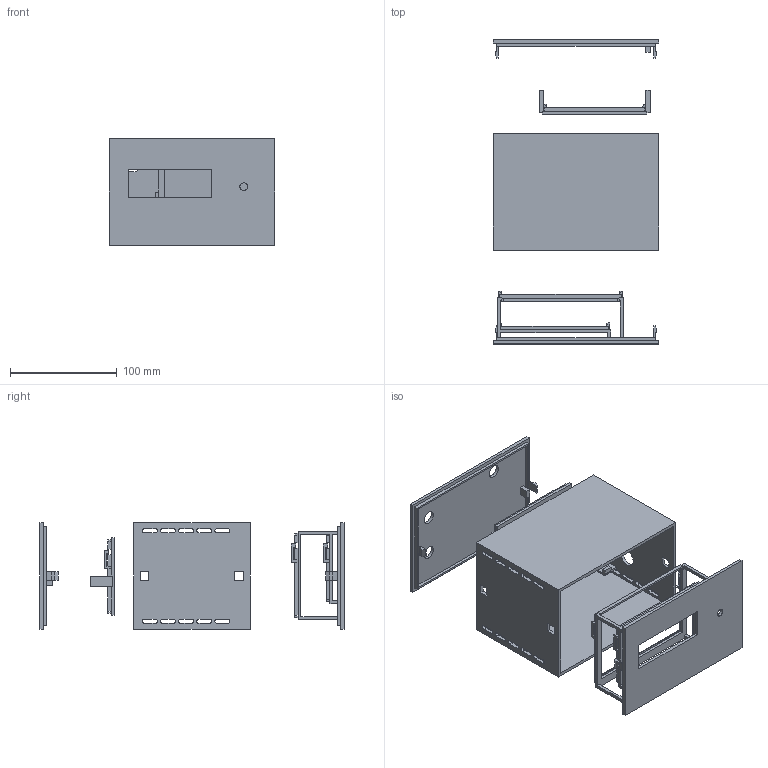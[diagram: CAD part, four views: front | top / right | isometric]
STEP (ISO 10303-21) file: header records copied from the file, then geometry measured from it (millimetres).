
FILE_DESCRIPTION(('Open CASCADE Model'),'2;1');
FILE_NAME('Open CASCADE Shape Model','2026-11-05T23:27:49',('Author'),( 'Open CASCADE'),'Open CASCADE STEP processor 7.8','Open CASCADE 7.8' ,'Unknown');
FILE_SCHEMA(('AUTOMOTIVE_DESIGN { 1 0 10303 214 1 1 1 1 }'));
Length unit declared in the file: millimetre
Products named in the file (5): Boitier_4_pieces_vue_eclatee; 01_Coque_ouverte; 02_Facade_supports_LCD_A; 03_Berceau_B; 04_Panneau_arriere
Assembly tree (4 placements, depth 2):
  Boitier_4_pieces_vue_eclatee
    01_Coque_ouverte
    02_Facade_supports_LCD_A
    03_Berceau_B
    04_Panneau_arriere
Bounding box: 155 x 285 x 100 mm (x, y, z)
Volume: 284393.1 mm3; surface area: 218135.8 mm2
Topology: 4 solids, 4 shells, 448 faces, 1299 edges, 864 vertices
Faces by surface type: plane 403, cylinder 45
Full cylindrical faces by diameter (mm): 7.2 x1, 12.4 x1, 12.5 x2, 16 x1
Entity records: 31711 total; most frequent: CARTESIAN_POINT 5214, DIRECTION 4893, LINE 3717, VECTOR 3717, ORIENTED_EDGE 2598, PCURVE 2598, DEFINITIONAL_REPRESENTATION 2598, EDGE_CURVE 1299
